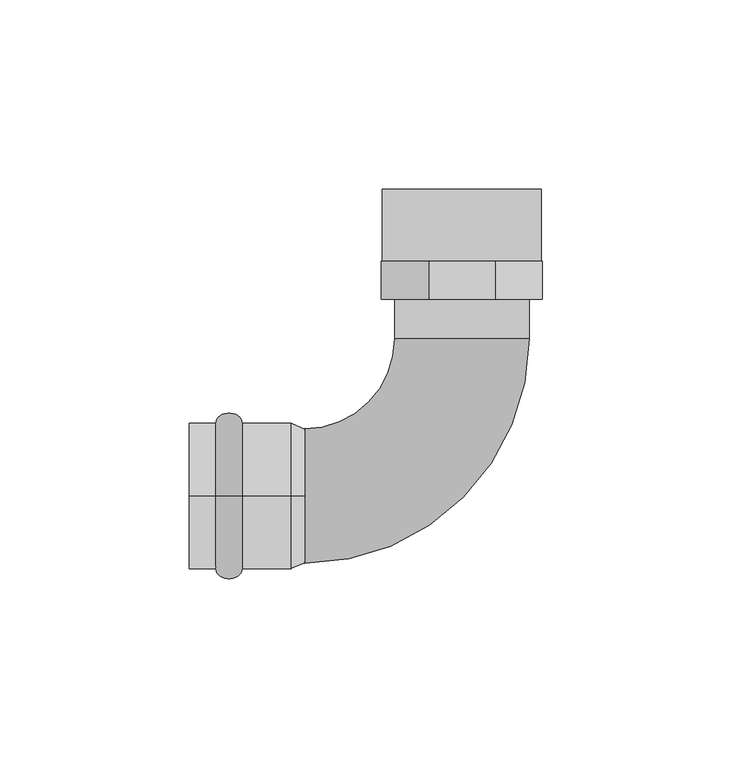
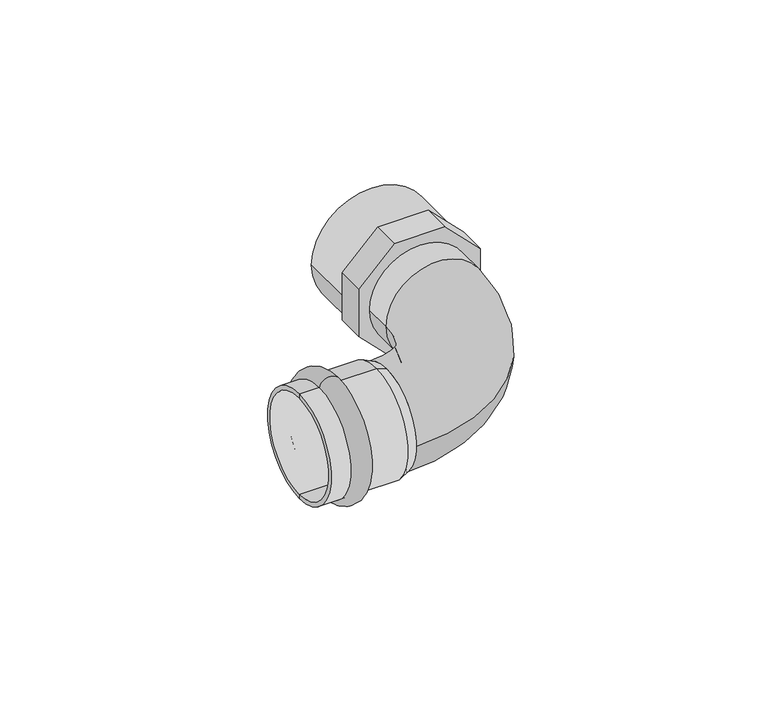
"""IFC4 building model written with IfcOpenShell, lengths in millimetres: pipe fitting geometry."""

from ifc_helpers import new_model, si_unit, point, frame, frame_2d, origin, place, context, project, spatial, polyline, circle_curve, ellipse_curve, trimmed, segment, composite_curve, outline, extrude, source, transform, mapped, element, save
from ifc_brep_helpers import plane_surface, cylinder_surface, revolved_surface, advanced_brep


def pipe_fitting_102a336c(model_context):
    return source(origin(), model_context, "Body", "SolidModel", [
        advanced_brep(
        [(-20.0, 0.0, 19.25), (-20.0, 0.0, -19.25), (-13.0, 0.0, -19.25), (-13.0, 0.0, 19.25)],
        [
            (0, 1, circle_curve(frame((-20.0, 0.0, 0.0), z_axis=(-1.0, 0.0, 0.0), x_axis=(0.0, 0.0, -1.0)), 19.25)),
            (1, 2),
            (2, 3, circle_curve(frame((-13.0, 0.0, 0.0), z_axis=(1.0, 0.0, 0.0), x_axis=(0.0, 0.0, -1.0)), 19.25)),
            (3, 0),
            (1, 0, circle_curve(frame((-20.0, 0.0, 0.0), z_axis=(-1.0, 0.0, 0.0), x_axis=(0.0, 0.0, -1.0)), 19.25)),
            (3, 2, circle_curve(frame((-13.0, 0.0, 0.0), z_axis=(1.0, 0.0, 0.0), x_axis=(0.0, 0.0, -1.0)), 19.25)),
            (2, 1, ellipse_curve(frame((-16.5, 0.0, -19.25), z_axis=(0.0, 1.0, 0.0), x_axis=(-1.0, 0.0, 0.0)), 3.5, 2.75)),
            (0, 3, ellipse_curve(frame((-16.5, 0.0, 19.25), z_axis=(0.0, 1.0, 0.0), x_axis=(-1.0, 0.0, 0.0)), 3.5, 2.75)),
        ],
        [
            revolved_surface(polyline([(-13.0, 0.0, -19.25), (-20.0, 0.0, -19.25)]), (3.0, 0.0, 0.0), (1.0, 0.0, 0.0)),
            revolved_surface(trimmed(ellipse_curve(frame((-16.5, 0.0, -19.25), z_axis=(0.0, -1.0, 0.0), x_axis=(-1.0, 0.0, 0.0)), 3.5, 2.75), [point((-20.0, 0.0, -19.25))], [point((-13.0, 0.0, -19.25))], True, "CARTESIAN"), (3.0, 0.0, 0.0), (1.0, 0.0, 0.0)),
        ],
        [
            (0, [[1, 2, 3, 4]]),
            (0, [[5, -4, 6, -2]]),
            (1, [[-3, 7, -1, 8]]),
            (1, [[-6, -8, -5, -7]]),
        ],
    ),
        advanced_brep(
        [(3.5337785, 0.0, 17.75), (3.5337785, 0.0, -17.75), (0.0, 0.0, -19.25), (0.0, 0.0, 19.25), (-27.0, 0.0, 17.75), (-27.0, 0.0, -17.75), (-27.0, 0.0, 19.25), (-27.0, 0.0, -19.25)],
        [
            (0, 1, circle_curve(frame((3.5337785, 0.0, 0.0), z_axis=(-1.0, 0.0, 0.0), x_axis=(0.0, 0.0, -1.0)), 17.75)),
            (1, 2),
            (2, 3, circle_curve(frame((0.0, 0.0, 0.0), z_axis=(1.0, 0.0, 0.0), x_axis=(0.0, 0.0, -1.0)), 19.25)),
            (3, 0),
            (1, 0, circle_curve(frame((3.5337785, 0.0, 0.0), z_axis=(-1.0, 0.0, 0.0), x_axis=(0.0, 0.0, -1.0)), 17.75)),
            (3, 2, circle_curve(frame((0.0, 0.0, 0.0), z_axis=(1.0, 0.0, 0.0), x_axis=(0.0, 0.0, -1.0)), 19.25)),
            (4, 5, circle_curve(frame((-27.0, 0.0, 0.0), z_axis=(-1.0, 0.0, 0.0), x_axis=(0.0, 0.0, -1.0)), 17.75)),
            (5, 1),
            (0, 4),
            (5, 4, circle_curve(frame((-27.0, 0.0, 0.0), z_axis=(-1.0, 0.0, 0.0), x_axis=(0.0, 0.0, -1.0)), 17.75)),
            (6, 7, circle_curve(frame((-27.0, 0.0, 0.0), z_axis=(-1.0, 0.0, 0.0), x_axis=(0.0, 0.0, -1.0)), 19.25)),
            (7, 5),
            (4, 6),
            (7, 6, circle_curve(frame((-27.0, 0.0, 0.0), z_axis=(-1.0, 0.0, 0.0), x_axis=(0.0, 0.0, -1.0)), 19.25)),
            (2, 7),
            (6, 3),
        ],
        [
            revolved_surface(polyline([(0.0, 0.0, -19.25), (3.5337785, 0.0, -17.75)]), (3.0, 0.0, 0.0), (1.0, 0.0, 0.0)),
            revolved_surface(polyline([(3.5337785, 0.0, -17.75), (-27.0, 0.0, -17.75)]), (3.0, 0.0, 0.0), (1.0, 0.0, 0.0)),
            plane_surface(frame((-27.0, 0.0, 0.0), z_axis=(-1.0, 0.0, 0.0), x_axis=(0.0, 0.0, -1.0))),
            cylinder_surface(frame((3.0, 0.0, 0.0), z_axis=(1.0, 0.0, 0.0), x_axis=(0.0, 0.0, -1.0)), 19.25),
        ],
        [
            (0, [[1, 2, 3, 4]]),
            (0, [[5, -4, 6, -2]]),
            (1, [[7, 8, -1, 9]]),
            (1, [[10, -9, -5, -8]]),
            (2, [[11, 12, -7, 13]]),
            (2, [[14, -13, -10, -12]]),
            (3, [[-3, 15, -11, 16]]),
            (3, [[-6, -16, -14, -15]]),
        ],
    ),
        extrude(outline(polyline([(8.8020382, 66.25), (21.25, 53.8020382), (21.25, 36.1979618), (8.8020382, 23.75), (-8.8020382, 23.75), (-21.25, 36.1979618), (-21.25, 53.8020382), (-8.8020382, 66.25), (8.8020382, 66.25)]), holes=[polyline([(-12.75, 39.7187771), (-5.2812229, 32.25), (5.2812229, 32.25), (12.75, 39.7187771), (12.75, 50.2812229), (5.2812229, 57.75), (-5.2812229, 57.75), (-12.75, 50.2812229), (-12.75, 39.7187771)])]), frame((0.0, 52.0, 0.0), z_axis=(0.0, 1.0, 0.0), x_axis=(0.0, 0.0, 1.0)), (0.0, 0.0, 1.0), 10.0),
        extrude(outline(composite_curve([segment(trimmed(circle_curve(frame_2d((0.0, 45.0)), 21.0), [point((0.0, 24.0))], [point((0.0, 66.0))], False, "CARTESIAN"), True, "CONTINUOUS"), segment(trimmed(circle_curve(frame_2d((0.0, 45.0)), 21.0), [point((0.0, 66.0))], [point((0.0, 24.0))], False, "CARTESIAN"), True, "CONTINUOUS")], self_intersect=False)), frame((0.0, 62.0, 0.0), z_axis=(0.0, 1.0, 0.0), x_axis=(0.0, 0.0, 1.0)), (0.0, 0.0, 1.0), 19.0),
        advanced_brep(
        [(0.0, -17.75, 0.0), (0.0, 17.75, 0.0), (3.5337785, -17.75, 0.0), (3.5337785, 17.75, 0.0), (27.25, 41.4662215, 0.0), (62.75, 41.4662215, 0.0), (62.75, 52.0, 0.0), (27.25, 52.0, 0.0)],
        [
            (0, 1, circle_curve(frame((0.0, 0.0, 0.0), z_axis=(-1.0, 0.0, 0.0), x_axis=(0.0, 1.0, 0.0)), 17.75)),
            (1, 0, circle_curve(frame((0.0, 0.0, 0.0), z_axis=(-1.0, 0.0, 0.0), x_axis=(0.0, 1.0, 0.0)), 17.75)),
            (0, 2),
            (2, 3, circle_curve(frame((3.5337785, 0.0, 0.0), z_axis=(-1.0, 0.0, 0.0), x_axis=(0.0, 1.0, 0.0)), 17.75)),
            (3, 1),
            (3, 2, circle_curve(frame((3.5337785, 0.0, 0.0), z_axis=(-1.0, 0.0, 0.0), x_axis=(0.0, 1.0, 0.0)), 17.75)),
            (4, 3, circle_curve(frame((3.5337785, 41.4662215, 0.0), z_axis=(0.0, 0.0, -1.0), x_axis=(0.0, -1.0, 0.0)), 23.7162215)),
            (2, 5, circle_curve(frame((3.5337785, 41.4662215, 0.0), z_axis=(0.0, 0.0, 1.0), x_axis=(0.0, -1.0, 0.0)), 59.2162215)),
            (5, 4, circle_curve(frame((45.0, 41.4662215, 0.0), z_axis=(0.0, -1.0, 0.0), x_axis=(-1.0, 0.0, 0.0)), 17.75)),
            (4, 5, circle_curve(frame((45.0, 41.4662215, 0.0), z_axis=(0.0, -1.0, 0.0), x_axis=(-1.0, 0.0, 0.0)), 17.75)),
            (6, 7, circle_curve(frame((45.0, 52.0, 0.0), z_axis=(0.0, 1.0, 0.0), x_axis=(-1.0, 0.0, 0.0)), 17.75)),
            (7, 6, circle_curve(frame((45.0, 52.0, 0.0), z_axis=(0.0, 1.0, 0.0), x_axis=(-1.0, 0.0, 0.0)), 17.75)),
            (5, 6),
            (7, 4),
        ],
        [
            plane_surface(frame((0.0, 0.0, 0.0), z_axis=(-1.0, 0.0, 0.0), x_axis=(0.0, 0.0, 1.0))),
            cylinder_surface(frame((0.0, 0.0, 0.0), z_axis=(-1.0, 0.0, 0.0), x_axis=(0.0, 1.0, 0.0)), 17.75),
            revolved_surface(trimmed(ellipse_curve(frame((3.5337785, 0.0, 0.0), z_axis=(-1.0, 0.0, 0.0), x_axis=(0.0, 1.0, 0.0)), 17.75, 17.75), [point((3.5337785, -17.75, 0.0))], [point((3.5337785, 17.75, 0.0))], True, "CARTESIAN"), (3.5337785, 41.4662215, 0.0), (0.0, 0.0, 1.0)),
            revolved_surface(trimmed(ellipse_curve(frame((3.5337785, 0.0, 0.0), z_axis=(-1.0, 0.0, 0.0), x_axis=(0.0, 1.0, 0.0)), 17.75, 17.75), [point((3.5337785, 17.75, 0.0))], [point((3.5337785, -17.75, 0.0))], True, "CARTESIAN"), (3.5337785, 41.4662215, 0.0), (0.0, 0.0, 1.0)),
            plane_surface(frame((45.0, 52.0, 0.0), z_axis=(0.0, 1.0, 0.0), x_axis=(0.0, 0.0, 1.0))),
            cylinder_surface(frame((45.0, 41.4662215, 0.0), z_axis=(0.0, -1.0, 0.0), x_axis=(-1.0, 0.0, 0.0)), 17.75),
        ],
        [
            (0, [[1, 2]]),
            (1, [[-1, 3, 4, 5]]),
            (1, [[-2, -5, 6, -3]]),
            (2, [[7, -4, 8, 9]]),
            (3, [[-8, -6, -7, 10]]),
            (4, [[11, 12]]),
            (5, [[-9, 13, -12, 14]]),
            (5, [[-10, -14, -11, -13]]),
        ],
    ),
    ])


if __name__ == "__main__":
    model = new_model("IFC4")
    model_context = context("Model", 3, world=origin())
    ifc_project = project(units=[si_unit("LENGTHUNIT", "METRE", prefix="MILLI")], contexts=[model_context])
    site = spatial("IfcSite", under=ifc_project)
    building = spatial("IfcBuilding", under=site)
    placement = place(None, origin())
    pipe_fitting_shape = pipe_fitting_102a336c(model_context)
    element("IfcPipeFitting", 1, ObjectType="РЕХАУ_Пресс Отвод НР : 35 x R 1 1/4\"", at=placement, inside=building, context=model_context, shape_type="MappedRepresentation", body=[
        mapped(pipe_fitting_shape, transform((0.0, 0.0, 0.0), x_axis=(1.0, 0.0, 0.0), y_axis=(0.0, 1.0, 0.0), z_axis=(0.0, 0.0, 1.0))),
    ])
    save(model, "model.ifc")
